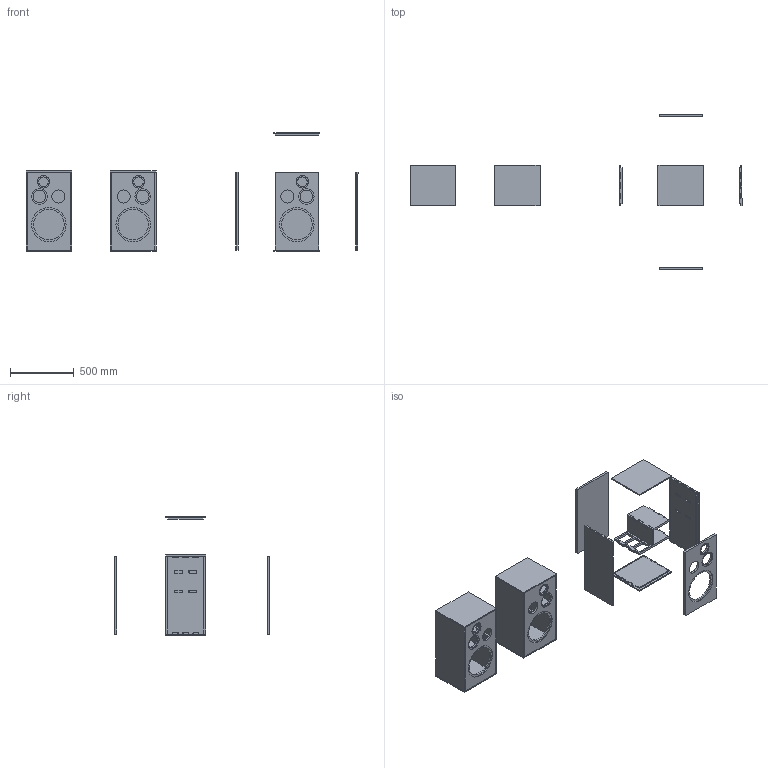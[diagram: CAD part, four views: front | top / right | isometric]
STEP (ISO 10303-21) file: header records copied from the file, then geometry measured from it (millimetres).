
FILE_DESCRIPTION(/* description */ (''),/* implementation_level */ '2;1');
FILE_NAME(/* name */ 'Høyttalerklassiker SEAS 403 revisited',/* time_stamp */ '2024-05-29T13:12:41+02:00',/* author */ (''),/* organization */ (''),/* preprocessor_version */ 'ST-DEVELOPER v19.2',/* originating_system */ 'Rhino 8.3',/* authorisation */ '');
FILE_SCHEMA (('CONFIG_CONTROL_DESIGN'));
Length unit declared in the file: millimetre
Products named in the file (1): Document
Bounding box: 2607.63 x 1216 x 930 mm (x, y, z)
Volume: 57776033.1 mm3; surface area: 7687454.1 mm2
Topology: 27 solids, 27 shells, 1263 faces, 3532 edges, 2375 vertices
Faces by surface type: plane 843, cylinder 420
Entity records: 38190 total; most frequent: CARTESIAN_POINT 12746, ORIENTED_EDGE 7032, EDGE_CURVE 3516, DIRECTION 2949, VERTEX_POINT 2343, AXIS2_PLACEMENT_3D 2106, EDGE_LOOP 1371, ADVANCED_FACE 1263
